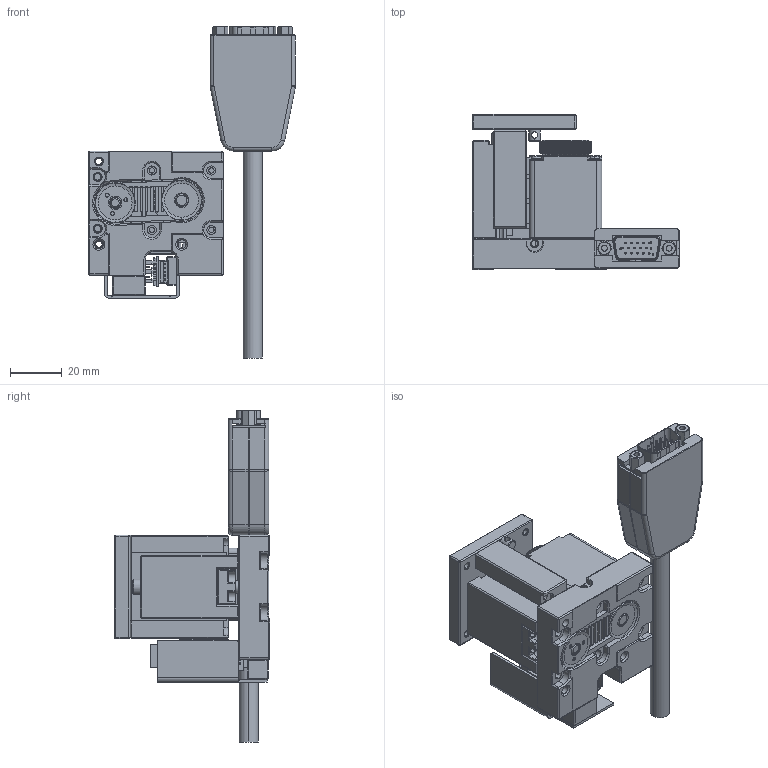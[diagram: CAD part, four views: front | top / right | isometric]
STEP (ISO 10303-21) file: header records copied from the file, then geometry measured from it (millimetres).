
FILE_DESCRIPTION (( 'STEP AP214' ), '1' );
FILE_NAME ('PT-GZ40.STEP', '2023-01-18T01:44:04', ( '' ), ( '' ), 'SwSTEP 2.0', 'SolidWorks 2017', '' );
FILE_SCHEMA (( 'AUTOMOTIVE_DESIGN' ));
Length unit declared in the file: millimetre
Products named in the file (56): GROUP2_AZV4006-F___K___STE-1452; MANIFOLD_SOLID_BREP_1470; MANIFOLD_SOLID_BREP_1461; GROUP2_AZV4006-F___K___STE-1431; MANIFOLD_SOLID_BREP_1446; GROUP2_AZV4006-F___K___STE-1454; GROUP2_AZV4006-F___K___STE-1451; MANIFOLD_SOLID_BREP_1474; _EHA01-4015-006-1442; MANIFOLD_SOLID_BREP_1462; MANIFOLD_SOLID_BREP_1476; MANIFOLD_SOLID_BREP_1437; GROUP2_AZV4006-F___K___STE-1456; MANIFOLD_SOLID_BREP_1473; GROUP2_AZV4006-F___K___STE-1455; MANIFOLD_SOLID_BREP_1465; MANIFOLD_SOLID_BREP_1472; GROUP2_AZV4006-F___K___STE-1457; _EHA01-4015-006-1443; GROUP2_AZV4006-F___K___STE-1464; MANIFOLD_SOLID_BREP_1477; GROUP2_AZV4006-F___K___STE-1427; _EHA01-4015-004-1438; _EHA01-4015-004-1439; MANIFOLD_SOLID_BREP_1449; MANIFOLD_SOLID_BREP_1471; GROUP1_AZV4006-F___K___STE-1430; MANIFOLD_SOLID_BREP_1435; MANIFOLD_SOLID_BREP_1432; PT-GZ40; MANIFOLD_SOLID_BREP_1450; GROUP2_AZV4006-F___K___STE-1425; ADMI1144AD1FPSG9; MANIFOLD_SOLID_BREP_1469; MANIFOLD_SOLID_BREP_1460; MANIFOLD_SOLID_BREP_1445; MANIFOLD_SOLID_BREP_1447; GROUP2_AZV4006-F___K___STE-1453; GROUP1_AZV4006-F___K___STE-1426; _EHB01-4015-003-1434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
Assembly tree (55 placements, depth 2):
  PT-GZ40
    ADMI1144AD1FPSG9
    GROUP1_AZV4006-F___K___STE-1426
    GROUP1_AZV4006-F___K___STE-1430
    GROUP2_AZV4006-F___K___STE-1424
    GROUP2_AZV4006-F___K___STE-1425
    GROUP2_AZV4006-F___K___STE-1427
    GROUP2_AZV4006-F___K___STE-1428
    GROUP2_AZV4006-F___K___STE-1429
    GROUP2_AZV4006-F___K___STE-1431
    GROUP2_AZV4006-F___K___STE-1441
    GROUP2_AZV4006-F___K___STE-1451
    GROUP2_AZV4006-F___K___STE-1452
    GROUP2_AZV4006-F___K___STE-1453
    GROUP2_AZV4006-F___K___STE-1454
    GROUP2_AZV4006-F___K___STE-1455
    GROUP2_AZV4006-F___K___STE-1456
    GROUP2_AZV4006-F___K___STE-1457
    GROUP2_AZV4006-F___K___STE-1458
    GROUP2_AZV4006-F___K___STE-1459
    GROUP2_AZV4006-F___K___STE-1463
    GROUP2_AZV4006-F___K___STE-1464
    MANIFOLD_SOLID_BREP_1432
    MANIFOLD_SOLID_BREP_1435
    MANIFOLD_SOLID_BREP_1436
    MANIFOLD_SOLID_BREP_1437
    MANIFOLD_SOLID_BREP_1445
    MANIFOLD_SOLID_BREP_1446
    MANIFOLD_SOLID_BREP_1447
    MANIFOLD_SOLID_BREP_1448
    MANIFOLD_SOLID_BREP_1449
    MANIFOLD_SOLID_BREP_1450
    MANIFOLD_SOLID_BREP_1460
    MANIFOLD_SOLID_BREP_1461
    MANIFOLD_SOLID_BREP_1462
    MANIFOLD_SOLID_BREP_1465
    MANIFOLD_SOLID_BREP_1466
    MANIFOLD_SOLID_BREP_1467
    MANIFOLD_SOLID_BREP_1468
    MANIFOLD_SOLID_BREP_1469
    MANIFOLD_SOLID_BREP_1470
    MANIFOLD_SOLID_BREP_1471
    MANIFOLD_SOLID_BREP_1472
    MANIFOLD_SOLID_BREP_1473
    MANIFOLD_SOLID_BREP_1474
    MANIFOLD_SOLID_BREP_1475
    MANIFOLD_SOLID_BREP_1476
    MANIFOLD_SOLID_BREP_1477
    _EHA01-4015-004-1438
    _EHA01-4015-004-1439
    _EHA01-4015-005
    _EHA01-4015-006-1442
    _EHA01-4015-006-1443
    _EHA01-4015-006-1444
    _EHB01-4015-003-1433
    _EHB01-4015-003-1434
Bounding box: 80 x 60 x 128.36 mm (x, y, z)
Volume: 96213.7 mm3; surface area: 60852.3 mm2
Topology: 54 solids, 64 shells, 3929 faces, 10218 edges, 6516 vertices
Faces by surface type: plane 1502, cylinder 1308, bspline 535, cone 332, torus 238, sphere 14
Entity records: 146072 total; most frequent: CARTESIAN_POINT 53136, ORIENTED_EDGE 20256, DIRECTION 16614, EDGE_CURVE 10191, VERTEX_POINT 6516, AXIS2_PLACEMENT_3D 5772, VECTOR 5070, LINE 5070
